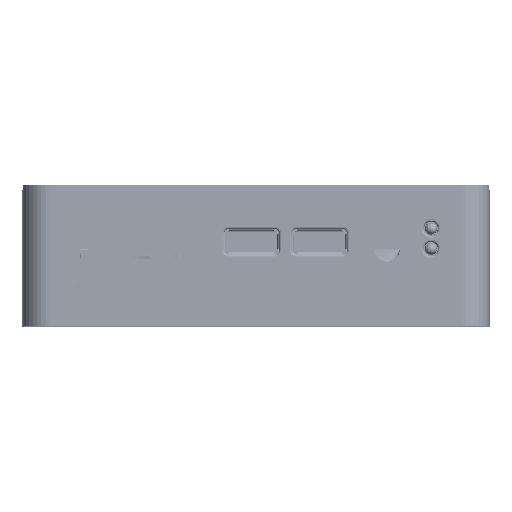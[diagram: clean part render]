
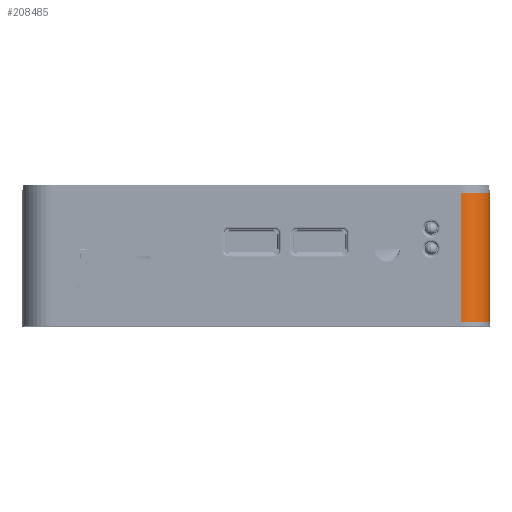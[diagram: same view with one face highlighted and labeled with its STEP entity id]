
A CAD part, top view. The second image highlights one B-rep face of the part: STEP entity #208485.
In plain terms, the highlighted cylindrical face has radius 7 mm (diameter 14 mm), a partial arc.
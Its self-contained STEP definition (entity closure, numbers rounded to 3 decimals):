
#4841 = FACE_OUTER_BOUND ( 'NONE', #137897, .T. ) ;
#10382 = ORIENTED_EDGE ( 'NONE', *, *, #33828, .T. ) ;
#13074 = AXIS2_PLACEMENT_3D ( 'NONE', #145215, #43272, #186405 ) ;
#16899 = ORIENTED_EDGE ( 'NONE', *, *, #58286, .T. ) ;
#17876 = VERTEX_POINT ( 'NONE', #69233 ) ;
#18413 = CARTESIAN_POINT ( 'NONE',  ( 50.5, 0., 57.5 ) ) ;
#33828 = EDGE_CURVE ( 'NONE', #111972, #49536, #82278, .T. ) ;
#43272 = DIRECTION ( 'NONE',  ( 0., -1., 0. ) ) ;
#44336 = VERTEX_POINT ( 'NONE', #46240 ) ;
#45033 = CARTESIAN_POINT ( 'NONE',  ( 50.5, 32.95, 57.5 ) ) ;
#46240 = CARTESIAN_POINT ( 'NONE',  ( 57.5, 1.05, 50.5 ) ) ;
#49536 = VERTEX_POINT ( 'NONE', #45033 ) ;
#53754 = LINE ( 'NONE', #209476, #181848 ) ;
#58286 = EDGE_CURVE ( 'NONE', #44336, #111972, #53754, .T. ) ;
#69233 = CARTESIAN_POINT ( 'NONE',  ( 50.5, 1.05, 57.5 ) ) ;
#79258 = EDGE_CURVE ( 'NONE', #17876, #49536, #193207, .T. ) ;
#82278 = CIRCLE ( 'NONE', #13074, 7. ) ;
#101594 = DIRECTION ( 'NONE',  ( 0., 1., 0. ) ) ;
#108014 = CIRCLE ( 'NONE', #218184, 7. ) ;
#111972 = VERTEX_POINT ( 'NONE', #206594 ) ;
#113700 = ORIENTED_EDGE ( 'NONE', *, *, #79258, .F. ) ;
#121824 = CARTESIAN_POINT ( 'NONE',  ( 50.5, 35.28, 50.5 ) ) ;
#133621 = DIRECTION ( 'NONE',  ( 0., 0., -1. ) ) ;
#137681 = ORIENTED_EDGE ( 'NONE', *, *, #219230, .T. ) ;
#137897 = EDGE_LOOP ( 'NONE', ( #113700, #137681, #16899, #10382 ) ) ;
#145215 = CARTESIAN_POINT ( 'NONE',  ( 50.5, 32.95, 50.5 ) ) ;
#167442 = DIRECTION ( 'NONE',  ( 0., 1., 0. ) ) ;
#181848 = VECTOR ( 'NONE', #167442, 1000. ) ;
#183772 = VECTOR ( 'NONE', #101594, 1000. ) ;
#186405 = DIRECTION ( 'NONE',  ( 0., 0., -1. ) ) ;
#187207 = AXIS2_PLACEMENT_3D ( 'NONE', #121824, #203296, #246134 ) ;
#187387 = CYLINDRICAL_SURFACE ( 'NONE', #187207, 7. ) ;
#193207 = LINE ( 'NONE', #18413, #183772 ) ;
#193596 = CARTESIAN_POINT ( 'NONE',  ( 50.5, 1.05, 50.5 ) ) ;
#203296 = DIRECTION ( 'NONE',  ( 0., -1., 0. ) ) ;
#206594 = CARTESIAN_POINT ( 'NONE',  ( 57.5, 32.95, 50.5 ) ) ;
#208485 = ADVANCED_FACE ( 'NONE', ( #4841 ), #187387, .T. ) ;
#209476 = CARTESIAN_POINT ( 'NONE',  ( 57.5, 35.28, 50.5 ) ) ;
#218184 = AXIS2_PLACEMENT_3D ( 'NONE', #193596, #254441, #133621 ) ;
#219230 = EDGE_CURVE ( 'NONE', #17876, #44336, #108014, .T. ) ;
#246134 = DIRECTION ( 'NONE',  ( 0., 0., -1. ) ) ;
#254441 = DIRECTION ( 'NONE',  ( 0., 1., 0. ) ) ;
